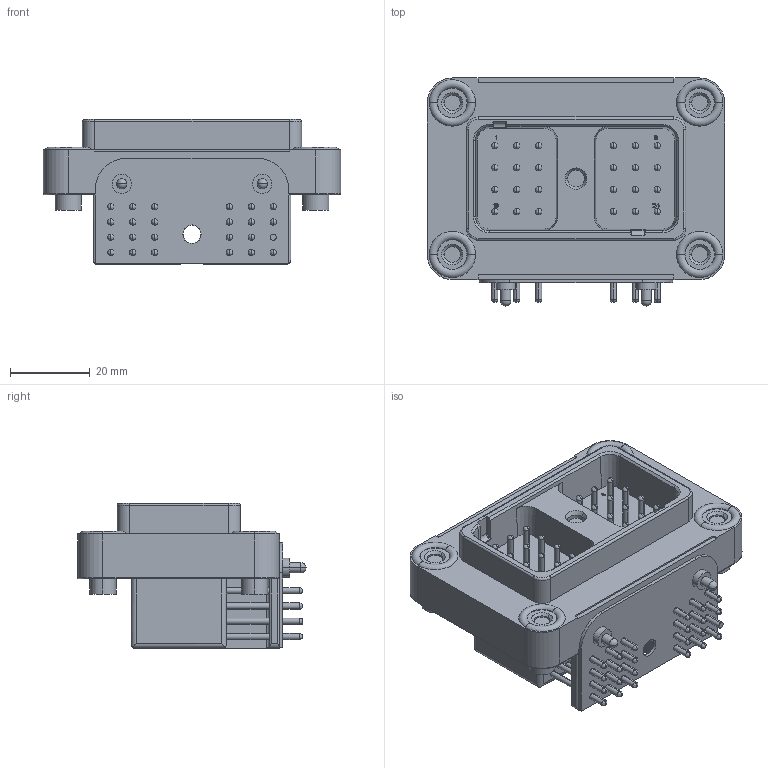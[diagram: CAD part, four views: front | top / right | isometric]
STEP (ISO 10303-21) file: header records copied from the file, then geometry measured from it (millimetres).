
FILE_DESCRIPTION((''),'2;1');
FILE_NAME('C-DRC13-24PA','2013-05-24T',('workeradm'),('Tyco Electronics Ltd.'),'PRO/ENGINEER BY PARAMETRIC TECHNOLOGY CORPORATION, 2011490','PRO/ENGINEER BY PARAMETRIC TECHNOLOGY CORPORATION, 2011490','');
FILE_SCHEMA(('AUTOMOTIVE_DESIGN { 1 0 10303 214 1 1 1 1 }'));
Length unit declared in the file: millimetre
Products named in the file (1): C-DRC13-24PA
Bounding box: 74.42 x 57.05 x 36.32 mm (x, y, z)
Volume: 65875.9 mm3; surface area: 21453.3 mm2
Topology: 1 solids, 1 shells, 735 faces, 1794 edges, 1136 vertices
Faces by surface type: plane 326, cylinder 255, bspline 102, torus 30, cone 18, sphere 4
Entity records: 24635 total; most frequent: CARTESIAN_POINT 6812, DIRECTION 3724, ORIENTED_EDGE 3580, EDGE_CURVE 1790, AXIS2_PLACEMENT_3D 1359, VERTEX_POINT 1136, VECTOR 1006, LINE 1006
